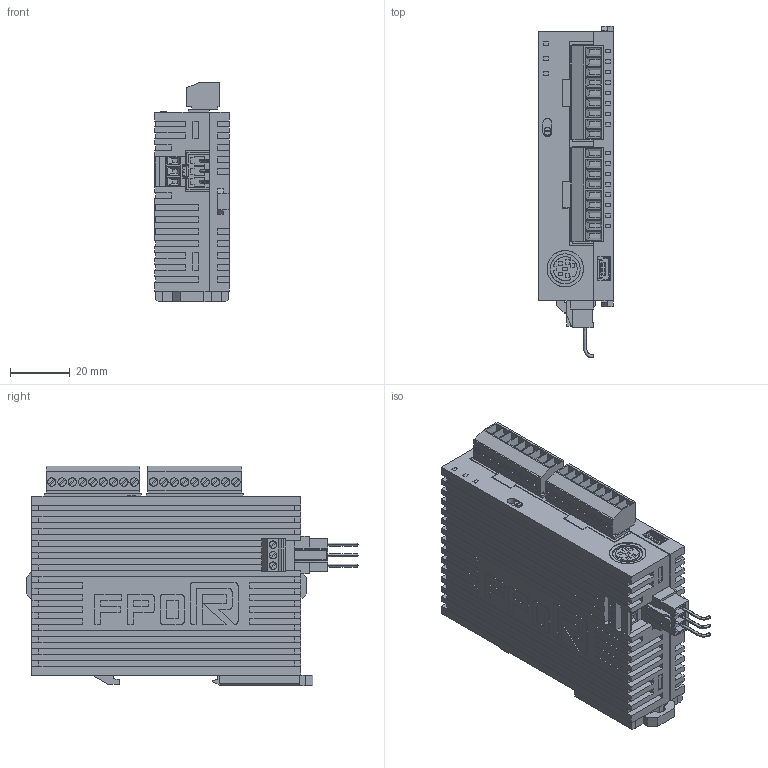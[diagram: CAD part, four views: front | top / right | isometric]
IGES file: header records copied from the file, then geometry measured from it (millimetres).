
Global section: organization: PanasonicElectricWorks; date: 090331.115341; units: millimetre
Bounding box: 25 x 111.19 x 73.45 mm (x, y, z)
Surface area: 28379.6 mm2 (no closed solid volume)
Topology: 0 solids, 0 shells, 1152 faces, 8263 edges, 8261 vertices
Faces by surface type: bspline 1055, revolution 97
